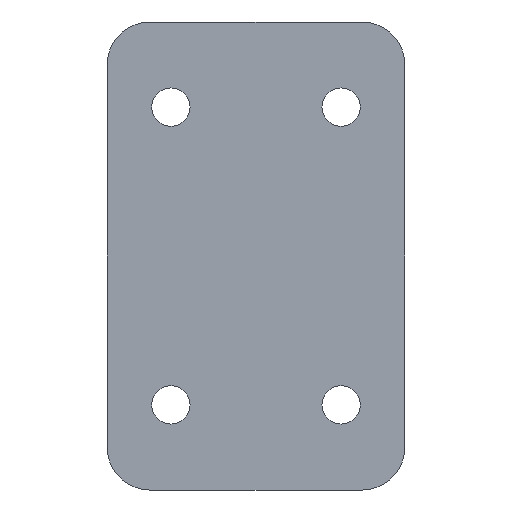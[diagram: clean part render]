
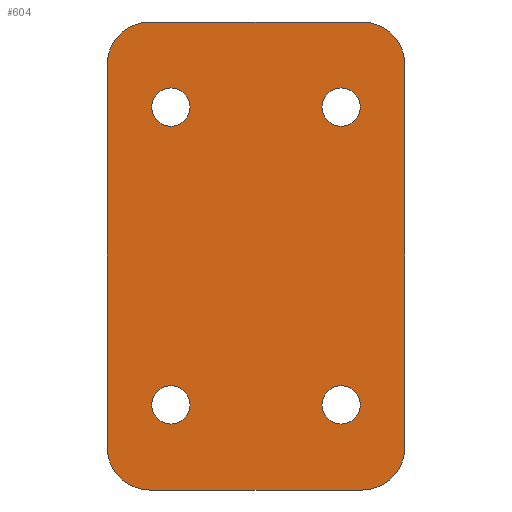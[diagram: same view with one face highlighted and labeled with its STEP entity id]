
A CAD part, front view. The second image highlights one B-rep face of the part: STEP entity #604.
In plain terms, the highlighted planar face has unit normal (0, -1, 0).
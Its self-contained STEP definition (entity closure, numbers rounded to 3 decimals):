
#7 = CARTESIAN_POINT ( 'NONE',  ( -20., 0., 30.5 ) ) ;
#9 = AXIS2_PLACEMENT_3D ( 'NONE', #847, #1260, #330 ) ;
#17 = CARTESIAN_POINT ( 'NONE',  ( 25., 0., 55. ) ) ;
#32 = CARTESIAN_POINT ( 'NONE',  ( 25., 0., -55. ) ) ;
#50 = VERTEX_POINT ( 'NONE', #17 ) ;
#55 = CIRCLE ( 'NONE', #818, 10. ) ;
#67 = LINE ( 'NONE', #364, #885 ) ;
#80 = AXIS2_PLACEMENT_3D ( 'NONE', #266, #870, #367 ) ;
#86 = EDGE_CURVE ( 'NONE', #860, #602, #1346, .T. ) ;
#90 = DIRECTION ( 'NONE',  ( 0., 0., 1. ) ) ;
#99 = CIRCLE ( 'NONE', #582, 4.5 ) ;
#122 = CARTESIAN_POINT ( 'NONE',  ( 35., 0., -45. ) ) ;
#135 = DIRECTION ( 'NONE',  ( 0., 1., 0. ) ) ;
#144 = CARTESIAN_POINT ( 'NONE',  ( -35., 0., 55. ) ) ;
#183 = EDGE_LOOP ( 'NONE', ( #684, #1196, #411, #424, #1213, #1052, #1307, #1034 ) ) ;
#188 = CARTESIAN_POINT ( 'NONE',  ( -25., 0., -45. ) ) ;
#196 = EDGE_CURVE ( 'NONE', #265, #1003, #553, .T. ) ;
#201 = EDGE_CURVE ( 'NONE', #977, #273, #312, .T. ) ;
#205 = VERTEX_POINT ( 'NONE', #288 ) ;
#228 = VERTEX_POINT ( 'NONE', #509 ) ;
#231 = ORIENTED_EDGE ( 'NONE', *, *, #196, .T. ) ;
#261 = DIRECTION ( 'NONE',  ( 1., 0., 0. ) ) ;
#265 = VERTEX_POINT ( 'NONE', #825 ) ;
#266 = CARTESIAN_POINT ( 'NONE',  ( -20., 0., -35. ) ) ;
#271 = CARTESIAN_POINT ( 'NONE',  ( 20., 0., 35. ) ) ;
#273 = VERTEX_POINT ( 'NONE', #436 ) ;
#288 = CARTESIAN_POINT ( 'NONE',  ( -20., 0., -39.5 ) ) ;
#293 = ORIENTED_EDGE ( 'NONE', *, *, #627, .T. ) ;
#299 = CARTESIAN_POINT ( 'NONE',  ( -35., 0., 55. ) ) ;
#306 = VERTEX_POINT ( 'NONE', #323 ) ;
#307 = DIRECTION ( 'NONE',  ( 0., 0., -1. ) ) ;
#311 = EDGE_CURVE ( 'NONE', #205, #306, #99, .T. ) ;
#312 = CIRCLE ( 'NONE', #442, 4.5 ) ;
#315 = EDGE_CURVE ( 'NONE', #1151, #851, #1051, .T. ) ;
#321 = CARTESIAN_POINT ( 'NONE',  ( -20., 0., 35. ) ) ;
#323 = CARTESIAN_POINT ( 'NONE',  ( -20., 0., -30.5 ) ) ;
#329 = AXIS2_PLACEMENT_3D ( 'NONE', #321, #943, #987 ) ;
#330 = DIRECTION ( 'NONE',  ( 0., 0., 1. ) ) ;
#337 = AXIS2_PLACEMENT_3D ( 'NONE', #791, #779, #1309 ) ;
#364 = CARTESIAN_POINT ( 'NONE',  ( 35., 0., 55. ) ) ;
#367 = DIRECTION ( 'NONE',  ( 0., 0., 1. ) ) ;
#373 = ORIENTED_EDGE ( 'NONE', *, *, #201, .T. ) ;
#377 = EDGE_CURVE ( 'NONE', #273, #977, #605, .T. ) ;
#404 = VECTOR ( 'NONE', #90, 1000. ) ;
#411 = ORIENTED_EDGE ( 'NONE', *, *, #1050, .F. ) ;
#414 = DIRECTION ( 'NONE',  ( 0., 1., 0. ) ) ;
#424 = ORIENTED_EDGE ( 'NONE', *, *, #591, .T. ) ;
#436 = CARTESIAN_POINT ( 'NONE',  ( 20., 0., -30.5 ) ) ;
#442 = AXIS2_PLACEMENT_3D ( 'NONE', #874, #1198, #575 ) ;
#453 = LINE ( 'NONE', #144, #1142 ) ;
#456 = CARTESIAN_POINT ( 'NONE',  ( 20., 0., -39.5 ) ) ;
#460 = FACE_BOUND ( 'NONE', #731, .T. ) ;
#465 = DIRECTION ( 'NONE',  ( 0., 1., 0. ) ) ;
#467 = FACE_BOUND ( 'NONE', #1130, .T. ) ;
#495 = EDGE_CURVE ( 'NONE', #954, #50, #453, .T. ) ;
#500 = CARTESIAN_POINT ( 'NONE',  ( -25., 0., 45. ) ) ;
#505 = ORIENTED_EDGE ( 'NONE', *, *, #315, .T. ) ;
#509 = CARTESIAN_POINT ( 'NONE',  ( -35., 0., -45. ) ) ;
#512 = AXIS2_PLACEMENT_3D ( 'NONE', #271, #465, #786 ) ;
#513 = CARTESIAN_POINT ( 'NONE',  ( -20., 0., 35. ) ) ;
#516 = CARTESIAN_POINT ( 'NONE',  ( -35., 0., 45. ) ) ;
#526 = DIRECTION ( 'NONE',  ( -1., 0., 0. ) ) ;
#532 = EDGE_CURVE ( 'NONE', #1003, #265, #666, .T. ) ;
#535 = CIRCLE ( 'NONE', #80, 4.5 ) ;
#536 = FACE_OUTER_BOUND ( 'NONE', #183, .T. ) ;
#553 = CIRCLE ( 'NONE', #512, 4.5 ) ;
#554 = AXIS2_PLACEMENT_3D ( 'NONE', #652, #135, #1280 ) ;
#563 = PLANE ( 'NONE',  #946 ) ;
#575 = DIRECTION ( 'NONE',  ( 0., 0., 1. ) ) ;
#576 = EDGE_CURVE ( 'NONE', #851, #1151, #732, .T. ) ;
#580 = AXIS2_PLACEMENT_3D ( 'NONE', #513, #1335, #819 ) ;
#582 = AXIS2_PLACEMENT_3D ( 'NONE', #646, #414, #918 ) ;
#588 = DIRECTION ( 'NONE',  ( 0., 0., -1. ) ) ;
#591 = EDGE_CURVE ( 'NONE', #707, #50, #55, .T. ) ;
#602 = VERTEX_POINT ( 'NONE', #122 ) ;
#604 = ADVANCED_FACE ( 'NONE', ( #1049, #460, #682, #467, #536 ), #563, .T. ) ;
#605 = CIRCLE ( 'NONE', #9, 4.5 ) ;
#608 = CIRCLE ( 'NONE', #1019, 10. ) ;
#612 = LINE ( 'NONE', #299, #404 ) ;
#624 = ORIENTED_EDGE ( 'NONE', *, *, #532, .T. ) ;
#627 = EDGE_CURVE ( 'NONE', #306, #205, #535, .T. ) ;
#644 = CIRCLE ( 'NONE', #822, 10. ) ;
#645 = VECTOR ( 'NONE', #526, 1000. ) ;
#646 = CARTESIAN_POINT ( 'NONE',  ( -20., 0., -35. ) ) ;
#652 = CARTESIAN_POINT ( 'NONE',  ( 20., 0., 35. ) ) ;
#657 = EDGE_CURVE ( 'NONE', #228, #843, #612, .T. ) ;
#666 = CIRCLE ( 'NONE', #554, 4.5 ) ;
#682 = FACE_BOUND ( 'NONE', #701, .T. ) ;
#684 = ORIENTED_EDGE ( 'NONE', *, *, #846, .F. ) ;
#689 = DIRECTION ( 'NONE',  ( 0., -1., 0. ) ) ;
#701 = EDGE_LOOP ( 'NONE', ( #624, #231 ) ) ;
#707 = VERTEX_POINT ( 'NONE', #713 ) ;
#713 = CARTESIAN_POINT ( 'NONE',  ( 35., 0., 45. ) ) ;
#717 = DIRECTION ( 'NONE',  ( 0., 0., -1. ) ) ;
#731 = EDGE_LOOP ( 'NONE', ( #884, #373 ) ) ;
#732 = CIRCLE ( 'NONE', #329, 4.5 ) ;
#735 = EDGE_CURVE ( 'NONE', #954, #843, #608, .T. ) ;
#771 = CARTESIAN_POINT ( 'NONE',  ( 25., 0., 45. ) ) ;
#779 = DIRECTION ( 'NONE',  ( 0., -1., 0. ) ) ;
#786 = DIRECTION ( 'NONE',  ( 0., 0., 1. ) ) ;
#787 = VERTEX_POINT ( 'NONE', #1041 ) ;
#791 = CARTESIAN_POINT ( 'NONE',  ( 25., 0., -45. ) ) ;
#818 = AXIS2_PLACEMENT_3D ( 'NONE', #771, #979, #1149 ) ;
#819 = DIRECTION ( 'NONE',  ( 0., 0., 1. ) ) ;
#822 = AXIS2_PLACEMENT_3D ( 'NONE', #188, #689, #588 ) ;
#825 = CARTESIAN_POINT ( 'NONE',  ( 20., 0., 30.5 ) ) ;
#827 = LINE ( 'NONE', #1239, #645 ) ;
#843 = VERTEX_POINT ( 'NONE', #516 ) ;
#846 = EDGE_CURVE ( 'NONE', #860, #787, #827, .T. ) ;
#847 = CARTESIAN_POINT ( 'NONE',  ( 20., 0., -35. ) ) ;
#851 = VERTEX_POINT ( 'NONE', #7 ) ;
#860 = VERTEX_POINT ( 'NONE', #32 ) ;
#870 = DIRECTION ( 'NONE',  ( 0., 1., 0. ) ) ;
#874 = CARTESIAN_POINT ( 'NONE',  ( 20., 0., -35. ) ) ;
#877 = CARTESIAN_POINT ( 'NONE',  ( 0., 0., 0. ) ) ;
#884 = ORIENTED_EDGE ( 'NONE', *, *, #377, .T. ) ;
#885 = VECTOR ( 'NONE', #717, 1000. ) ;
#918 = DIRECTION ( 'NONE',  ( 0., 0., 1. ) ) ;
#943 = DIRECTION ( 'NONE',  ( 0., 1., 0. ) ) ;
#946 = AXIS2_PLACEMENT_3D ( 'NONE', #877, #951, #1193 ) ;
#951 = DIRECTION ( 'NONE',  ( 0., -1., 0. ) ) ;
#954 = VERTEX_POINT ( 'NONE', #975 ) ;
#975 = CARTESIAN_POINT ( 'NONE',  ( -25., 0., 55. ) ) ;
#977 = VERTEX_POINT ( 'NONE', #456 ) ;
#979 = DIRECTION ( 'NONE',  ( 0., -1., 0. ) ) ;
#983 = CARTESIAN_POINT ( 'NONE',  ( 20., 0., 39.5 ) ) ;
#987 = DIRECTION ( 'NONE',  ( 0., 0., 1. ) ) ;
#1003 = VERTEX_POINT ( 'NONE', #983 ) ;
#1019 = AXIS2_PLACEMENT_3D ( 'NONE', #500, #1234, #307 ) ;
#1034 = ORIENTED_EDGE ( 'NONE', *, *, #1283, .T. ) ;
#1041 = CARTESIAN_POINT ( 'NONE',  ( -25., 0., -55. ) ) ;
#1049 = FACE_BOUND ( 'NONE', #1267, .T. ) ;
#1050 = EDGE_CURVE ( 'NONE', #707, #602, #67, .T. ) ;
#1051 = CIRCLE ( 'NONE', #580, 4.5 ) ;
#1052 = ORIENTED_EDGE ( 'NONE', *, *, #735, .T. ) ;
#1086 = CARTESIAN_POINT ( 'NONE',  ( -20., 0., 39.5 ) ) ;
#1130 = EDGE_LOOP ( 'NONE', ( #505, #1135 ) ) ;
#1135 = ORIENTED_EDGE ( 'NONE', *, *, #576, .T. ) ;
#1142 = VECTOR ( 'NONE', #261, 1000. ) ;
#1149 = DIRECTION ( 'NONE',  ( 0., 0., -1. ) ) ;
#1151 = VERTEX_POINT ( 'NONE', #1086 ) ;
#1193 = DIRECTION ( 'NONE',  ( 0., 0., -1. ) ) ;
#1196 = ORIENTED_EDGE ( 'NONE', *, *, #86, .T. ) ;
#1198 = DIRECTION ( 'NONE',  ( 0., 1., 0. ) ) ;
#1213 = ORIENTED_EDGE ( 'NONE', *, *, #495, .F. ) ;
#1234 = DIRECTION ( 'NONE',  ( 0., -1., 0. ) ) ;
#1239 = CARTESIAN_POINT ( 'NONE',  ( -35., 0., -55. ) ) ;
#1260 = DIRECTION ( 'NONE',  ( 0., 1., 0. ) ) ;
#1267 = EDGE_LOOP ( 'NONE', ( #293, #1304 ) ) ;
#1280 = DIRECTION ( 'NONE',  ( 0., 0., 1. ) ) ;
#1283 = EDGE_CURVE ( 'NONE', #228, #787, #644, .T. ) ;
#1304 = ORIENTED_EDGE ( 'NONE', *, *, #311, .T. ) ;
#1307 = ORIENTED_EDGE ( 'NONE', *, *, #657, .F. ) ;
#1309 = DIRECTION ( 'NONE',  ( 0., 0., -1. ) ) ;
#1335 = DIRECTION ( 'NONE',  ( 0., 1., 0. ) ) ;
#1346 = CIRCLE ( 'NONE', #337, 10. ) ;
